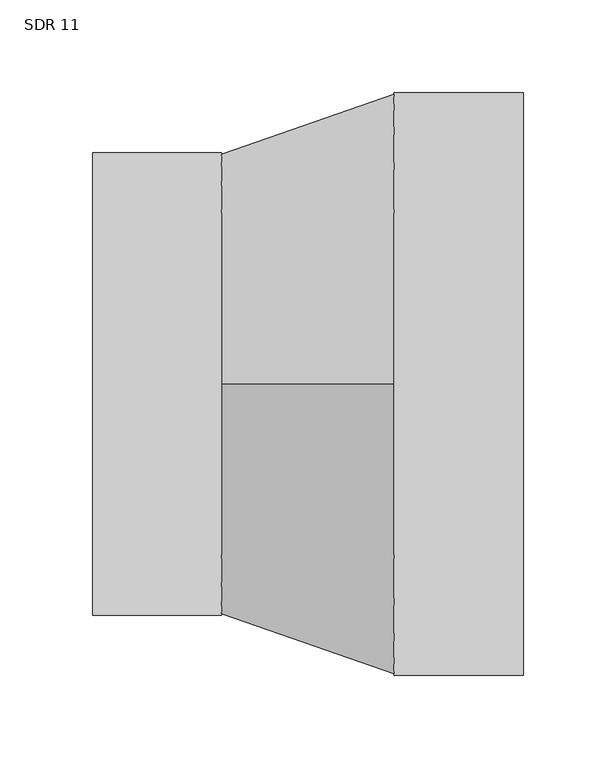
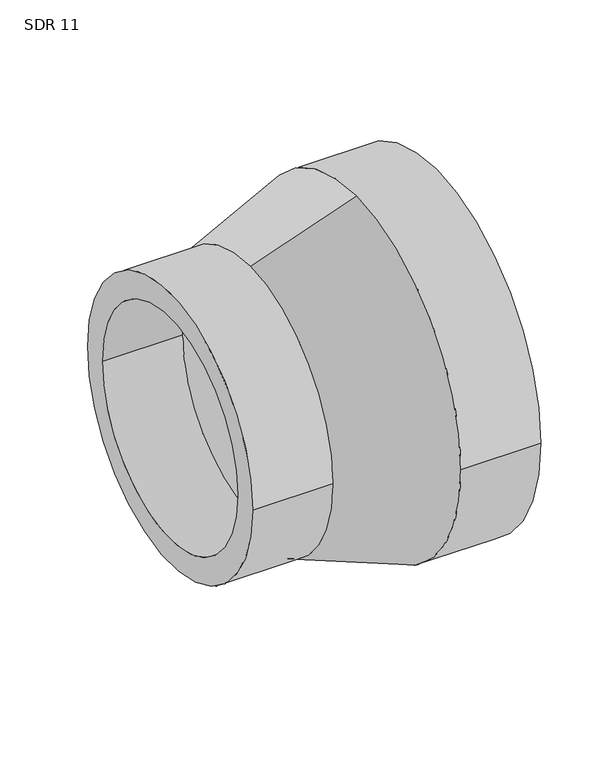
"""IFC4 building model written with IfcOpenShell, lengths in millimetres: pipe fitting geometry, Aquatherm - Reducing Coupling Combined - METRIC : SDR 11."""

from ifc_helpers import new_model, si_unit, frame, origin, place, context, project, spatial, polyline, circle_curve, source, transform, mapped, element, save
from ifc_brep_helpers import plane_surface, cylinder_surface, revolved_surface, advanced_brep


def sdr_11_c8af971d(model_context):
    return source(origin(), model_context, "Body", "AdvancedBrep", [
        advanced_brep(
        [(-116.459, -124.968, 0.0), (-116.459, 124.968, 0.0), (-116.459, -102.2465455, 0.0), (-116.459, 102.2465455, 0.0), (-46.5836, 102.2465455, 0.0), (-46.5836, 0.0, 102.2465455), (-46.5836, -102.2465455, 0.0), (-46.5836, 0.0, -102.2465455), (-46.5836, 124.968, 0.0), (-46.5836, 0.0, -124.968), (-46.5836, -124.968, 0.0), (-46.5836, 0.0, 124.968), (116.459, -157.48, 0.0), (116.459, 157.48, 0.0), (116.459, -128.8472727, 0.0), (116.459, 128.8472727, 0.0), (46.5836, -157.48, 0.0), (46.5836, 0.0, -157.48), (46.5836, 157.48, 0.0), (46.5836, 0.0, 157.48), (46.5836, -128.8472727, 0.0), (46.5836, 0.0, 128.8472727), (46.5836, 128.8472727, 0.0), (46.5836, 0.0, -128.8472727)],
        [
            (0, 1, circle_curve(frame((-116.459, 0.0, 0.0), z_axis=(-1.0, 0.0, 0.0), x_axis=(0.0, 1.0, 0.0)), 124.968)),
            (1, 0, circle_curve(frame((-116.459, 0.0, 0.0), z_axis=(-1.0, 0.0, 0.0), x_axis=(0.0, 1.0, 0.0)), 124.968)),
            (2, 3, circle_curve(frame((-116.459, 0.0, 0.0), z_axis=(1.0, 0.0, 0.0), x_axis=(0.0, 1.0, 0.0)), 102.2465455)),
            (3, 2, circle_curve(frame((-116.459, 0.0, 0.0), z_axis=(1.0, 0.0, 0.0), x_axis=(0.0, 1.0, 0.0)), 102.2465455)),
            (3, 4),
            (4, 5, circle_curve(frame((-46.5836, 0.0, 0.0), z_axis=(1.0, 0.0, 0.0), x_axis=(0.0, 1.0, 0.0)), 102.2465455)),
            (5, 6, circle_curve(frame((-46.5836, 0.0, 0.0), z_axis=(1.0, 0.0, 0.0), x_axis=(0.0, 1.0, 0.0)), 102.2465455)),
            (6, 2),
            (6, 7, circle_curve(frame((-46.5836, 0.0, 0.0), z_axis=(1.0, 0.0, 0.0), x_axis=(0.0, 1.0, 0.0)), 102.2465455)),
            (7, 4, circle_curve(frame((-46.5836, 0.0, 0.0), z_axis=(1.0, 0.0, 0.0), x_axis=(0.0, 1.0, 0.0)), 102.2465455)),
            (1, 8),
            (8, 9, circle_curve(frame((-46.5836, 0.0, 0.0), z_axis=(-1.0, 0.0, 0.0), x_axis=(0.0, 1.0, 0.0)), 124.968)),
            (9, 10, circle_curve(frame((-46.5836, 0.0, 0.0), z_axis=(-1.0, 0.0, 0.0), x_axis=(0.0, 1.0, 0.0)), 124.968)),
            (10, 0),
            (10, 11, circle_curve(frame((-46.5836, 0.0, 0.0), z_axis=(-1.0, 0.0, 0.0), x_axis=(0.0, 1.0, 0.0)), 124.968)),
            (11, 8, circle_curve(frame((-46.5836, 0.0, 0.0), z_axis=(-1.0, 0.0, 0.0), x_axis=(0.0, 1.0, 0.0)), 124.968)),
            (12, 13, circle_curve(frame((116.459, 0.0, 0.0), z_axis=(1.0, 0.0, 0.0), x_axis=(0.0, 1.0, 0.0)), 157.48)),
            (13, 12, circle_curve(frame((116.459, 0.0, 0.0), z_axis=(1.0, 0.0, 0.0), x_axis=(0.0, 1.0, 0.0)), 157.48)),
            (14, 15, circle_curve(frame((116.459, 0.0, 0.0), z_axis=(-1.0, 0.0, 0.0), x_axis=(0.0, 1.0, 0.0)), 128.8472727)),
            (15, 14, circle_curve(frame((116.459, 0.0, 0.0), z_axis=(-1.0, 0.0, 0.0), x_axis=(0.0, 1.0, 0.0)), 128.8472727)),
            (12, 16),
            (16, 17, circle_curve(frame((46.5836, 0.0, 0.0), z_axis=(1.0, 0.0, 0.0), x_axis=(0.0, 1.0, 0.0)), 157.48)),
            (17, 18, circle_curve(frame((46.5836, 0.0, 0.0), z_axis=(1.0, 0.0, 0.0), x_axis=(0.0, 1.0, 0.0)), 157.48)),
            (18, 13),
            (18, 19, circle_curve(frame((46.5836, 0.0, 0.0), z_axis=(1.0, 0.0, 0.0), x_axis=(0.0, 1.0, 0.0)), 157.48)),
            (19, 16, circle_curve(frame((46.5836, 0.0, 0.0), z_axis=(1.0, 0.0, 0.0), x_axis=(0.0, 1.0, 0.0)), 157.48)),
            (14, 20),
            (20, 21, circle_curve(frame((46.5836, 0.0, 0.0), z_axis=(-1.0, 0.0, 0.0), x_axis=(0.0, 1.0, 0.0)), 128.8472727)),
            (21, 22, circle_curve(frame((46.5836, 0.0, 0.0), z_axis=(-1.0, 0.0, 0.0), x_axis=(0.0, 1.0, 0.0)), 128.8472727)),
            (22, 15),
            (22, 23, circle_curve(frame((46.5836, 0.0, 0.0), z_axis=(-1.0, 0.0, 0.0), x_axis=(0.0, 1.0, 0.0)), 128.8472727)),
            (23, 20, circle_curve(frame((46.5836, 0.0, 0.0), z_axis=(-1.0, 0.0, 0.0), x_axis=(0.0, 1.0, 0.0)), 128.8472727)),
            (11, 19),
            (17, 9),
            (21, 5),
            (7, 23),
        ],
        [
            plane_surface(frame((-116.459, 102.2465455, 0.0), z_axis=(-1.0, 0.0, 0.0), x_axis=(0.0, 0.0, 1.0))),
            revolved_surface(polyline([(-116.459, 102.2465455, 0.0), (-46.58359999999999, 102.2465455, 0.0)]), (-116.459, 0.0, 0.0), (-1.0, 0.0, 0.0)),
            cylinder_surface(frame((0.0, 0.0, 0.0), z_axis=(1.0, 0.0, 0.0), x_axis=(0.0, 1.0, 0.0)), 124.968),
            plane_surface(frame((116.459, 157.48, 0.0), z_axis=(1.0, 0.0, 0.0), x_axis=(0.0, 0.0, 1.0))),
            cylinder_surface(frame((46.5836, 0.0, 0.0), z_axis=(1.0, 0.0, 0.0), x_axis=(0.0, 1.0, 0.0)), 157.48),
            revolved_surface(polyline([(46.5836, 128.8472727, 0.0), (116.459, 128.8472727, 0.0)]), (0.0, 0.0, 0.0), (-1.0, 0.0, 0.0)),
            revolved_surface(polyline([(46.5836, 0.0, 157.48), (-46.5836, 0.0, 124.968)]), (-691.7185384, 0.0, 0.0), (-1.0, 0.0, 0.0)),
            revolved_surface(polyline([(-46.5836, 0.0, 102.2465455), (46.5836, 0.0, 128.8472727)]), (-691.7185384, 0.0, 0.0), (-1.0, 0.0, 0.0)),
        ],
        [
            (0, [[1, 2], [3, 4]]),
            (1, [[-4, 5, 6, 7, 8]]),
            (1, [[-3, -8, 9, 10, -5]]),
            (2, [[-2, 11, 12, 13, 14]]),
            (2, [[-1, -14, 15, 16, -11]]),
            (3, [[17, 18], [19, 20]]),
            (4, [[-17, 21, 22, 23, 24]]),
            (4, [[-18, -24, 25, 26, -21]]),
            (5, [[-19, 27, 28, 29, 30]]),
            (5, [[-20, -30, 31, 32, -27]]),
            (6, [[33, -25, -23, 34, -12, -16]]),
            (6, [[-33, -15, -13, -34, -22, -26]]),
            (7, [[35, -6, -10, 36, -31, -29]]),
            (7, [[-35, -28, -32, -36, -9, -7]]),
        ],
    ),
    ])


if __name__ == "__main__":
    model = new_model("IFC4")
    model_context = context("Model", 3, world=origin())
    ifc_project = project(units=[si_unit("LENGTHUNIT", "METRE", prefix="MILLI")], contexts=[model_context])
    site = spatial("IfcSite", under=ifc_project)
    building = spatial("IfcBuilding", under=site)
    placement = place(None, origin())
    sdr_11_shape = sdr_11_c8af971d(model_context)
    element("IfcPipeFitting", 1, ObjectType="Aquatherm - Reducing Coupling Combined - METRIC : SDR 11", at=placement, inside=building, context=model_context, shape_type="MappedRepresentation", body=[
        mapped(sdr_11_shape, transform((0.0, 0.0, 0.0), x_axis=(1.0, 0.0, 0.0), y_axis=(0.0, 1.0, 0.0), z_axis=(0.0, 0.0, 1.0))),
    ])
    save(model, "model.ifc")
